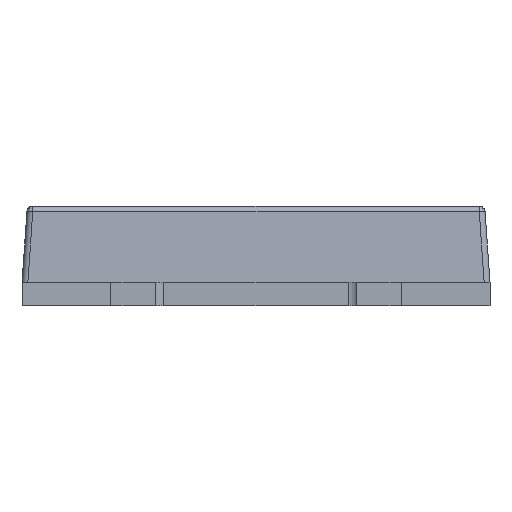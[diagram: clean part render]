
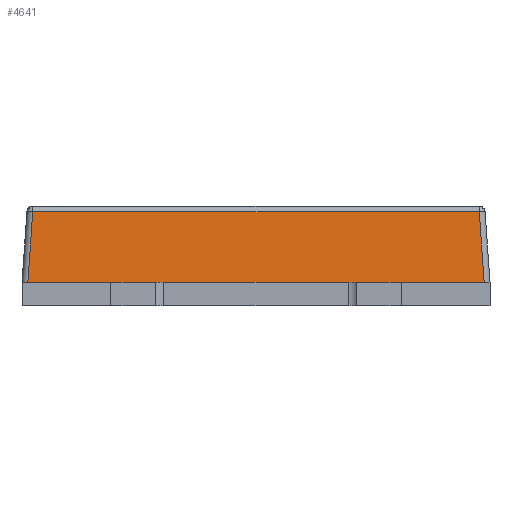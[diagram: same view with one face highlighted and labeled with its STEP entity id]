
A CAD part, front view. The second image highlights one B-rep face of the part: STEP entity #4641.
In plain terms, the highlighted planar face has unit normal (0, -0.998, 0.07).
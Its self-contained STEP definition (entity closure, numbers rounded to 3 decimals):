
#43 = CARTESIAN_POINT ( 'NONE',  ( -1.95, -2.435, 0.2 ) ) ;
#101 = PLANE ( 'NONE',  #5212 ) ;
#128 = VECTOR ( 'NONE', #4324, 1000. ) ;
#229 = EDGE_CURVE ( 'NONE', #4629, #1013, #386, .T. ) ;
#386 = LINE ( 'NONE', #1824, #128 ) ;
#455 = CARTESIAN_POINT ( 'NONE',  ( -1.62, -2.435, 0.2 ) ) ;
#586 = LINE ( 'NONE', #455, #2685 ) ;
#601 = EDGE_CURVE ( 'NONE', #4738, #2124, #3695, .T. ) ;
#723 = FACE_OUTER_BOUND ( 'NONE', #3292, .T. ) ;
#1013 = VERTEX_POINT ( 'NONE', #1895 ) ;
#1278 = DIRECTION ( 'NONE',  ( -1., 0., 0. ) ) ;
#1601 = DIRECTION ( 'NONE',  ( 0.07, -0.07, -0.995 ) ) ;
#1715 = DIRECTION ( 'NONE',  ( 0.07, 0.07, 0.995 ) ) ;
#1729 = CARTESIAN_POINT ( 'NONE',  ( 1.908, -2.393, 0.804 ) ) ;
#1824 = CARTESIAN_POINT ( 'NONE',  ( -1., -2.435, 0.2 ) ) ;
#1895 = CARTESIAN_POINT ( 'NONE',  ( 1.24, -2.435, 0.2 ) ) ;
#1919 = VERTEX_POINT ( 'NONE', #2870 ) ;
#1966 = VECTOR ( 'NONE', #1715, 1000. ) ;
#2097 = VECTOR ( 'NONE', #5257, 1000. ) ;
#2122 = ORIENTED_EDGE ( 'NONE', *, *, #4594, .F. ) ;
#2124 = VERTEX_POINT ( 'NONE', #1729 ) ;
#2175 = DIRECTION ( 'NONE',  ( 0., -0.07, -0.998 ) ) ;
#2224 = LINE ( 'NONE', #5277, #2097 ) ;
#2253 = CARTESIAN_POINT ( 'NONE',  ( -1.908, -2.393, 0.804 ) ) ;
#2424 = LINE ( 'NONE', #4098, #4612 ) ;
#2618 = EDGE_CURVE ( 'NONE', #2124, #1919, #2424, .T. ) ;
#2685 = VECTOR ( 'NONE', #1278, 1000. ) ;
#2870 = CARTESIAN_POINT ( 'NONE',  ( 1.95, -2.435, 0.2 ) ) ;
#2945 = LINE ( 'NONE', #4190, #1966 ) ;
#2988 = CARTESIAN_POINT ( 'NONE',  ( -1.24, -2.435, 0.2 ) ) ;
#3292 = EDGE_LOOP ( 'NONE', ( #2122, #5036, #3659, #3345, #4468, #3668 ) ) ;
#3345 = ORIENTED_EDGE ( 'NONE', *, *, #3686, .F. ) ;
#3557 = VECTOR ( 'NONE', #4853, 1000. ) ;
#3659 = ORIENTED_EDGE ( 'NONE', *, *, #229, .T. ) ;
#3668 = ORIENTED_EDGE ( 'NONE', *, *, #601, .F. ) ;
#3686 = EDGE_CURVE ( 'NONE', #1919, #1013, #2224, .T. ) ;
#3695 = LINE ( 'NONE', #5268, #3557 ) ;
#3765 = VERTEX_POINT ( 'NONE', #43 ) ;
#3799 = EDGE_CURVE ( 'NONE', #4629, #3765, #586, .T. ) ;
#3814 = CARTESIAN_POINT ( 'NONE',  ( -2., -2.435, 0.2 ) ) ;
#4098 = CARTESIAN_POINT ( 'NONE',  ( 1.95, -2.435, 0.197 ) ) ;
#4190 = CARTESIAN_POINT ( 'NONE',  ( -1.95, -2.435, 0.197 ) ) ;
#4324 = DIRECTION ( 'NONE',  ( 1., 0., 0. ) ) ;
#4468 = ORIENTED_EDGE ( 'NONE', *, *, #2618, .F. ) ;
#4594 = EDGE_CURVE ( 'NONE', #3765, #4738, #2945, .T. ) ;
#4612 = VECTOR ( 'NONE', #1601, 1000. ) ;
#4629 = VERTEX_POINT ( 'NONE', #2988 ) ;
#4641 = ADVANCED_FACE ( 'NONE', ( #723 ), #101, .F. ) ;
#4650 = DIRECTION ( 'NONE',  ( 0., 0.998, -0.07 ) ) ;
#4738 = VERTEX_POINT ( 'NONE', #2253 ) ;
#4853 = DIRECTION ( 'NONE',  ( 1., 0., 0. ) ) ;
#5036 = ORIENTED_EDGE ( 'NONE', *, *, #3799, .F. ) ;
#5212 = AXIS2_PLACEMENT_3D ( 'NONE', #3814, #4650, #2175 ) ;
#5257 = DIRECTION ( 'NONE',  ( -1., 0., 0. ) ) ;
#5268 = CARTESIAN_POINT ( 'NONE',  ( -2., -2.393, 0.804 ) ) ;
#5277 = CARTESIAN_POINT ( 'NONE',  ( -0.025, -2.435, 0.2 ) ) ;
